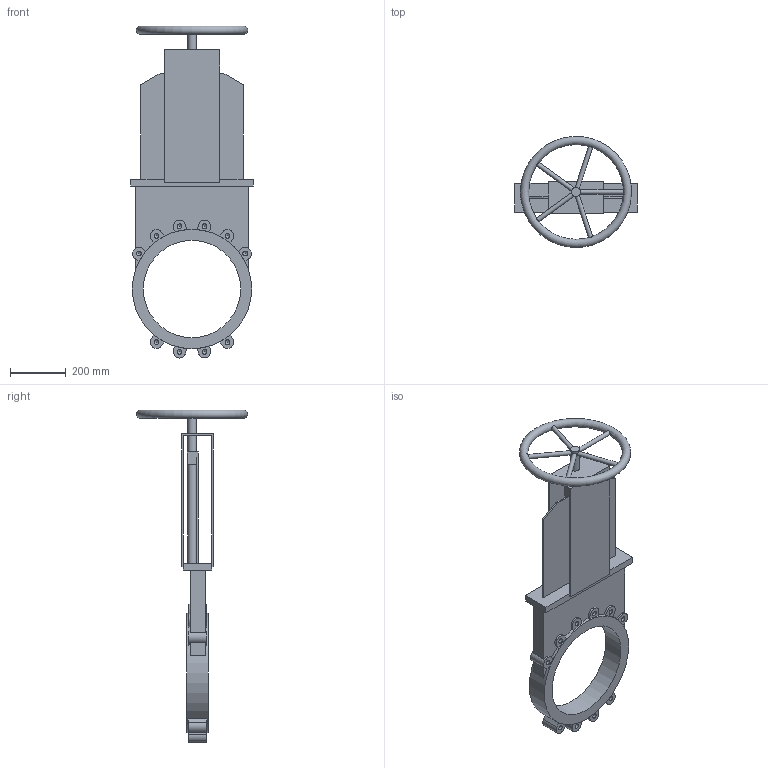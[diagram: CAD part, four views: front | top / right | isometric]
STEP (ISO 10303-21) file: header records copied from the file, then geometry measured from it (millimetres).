
FILE_DESCRIPTION(('STEP AP203'), '1');
FILE_NAME('Çàäâèæêà øèáåðíàÿ ìåæôëàíöåâàÿ K51GV DN350', '', ('UNSPECIFIED'), ('UNSPECIFIED'), 'ASCON STEP Converter 1.6', 'ASCON Math Kernel', '');
FILE_SCHEMA(('CONFIG_CONTROL_DESIGN'));
Length unit declared in the file: millimetre
Bounding box: 440 x 399.66 x 1194.08 mm (x, y, z)
Volume: 12863897.2 mm3; surface area: 1508385.9 mm2
Topology: 1 solids, 1 shells, 159 faces, 434 edges, 281 vertices
Faces by surface type: plane 94, cylinder 44, cone 20, torus 1
Full cylindrical faces by diameter (mm): 16 x5, 17.294 x20, 32 x3, 350 x1, 429 x1
Entity records: 7112 total; most frequent: CARTESIAN_POINT 2018, DIRECTION 790, ORIENTED_EDGE 720, EDGE_CURVE 360, AXIS2_PLACEMENT_3D 282, VERTEX_POINT 260, EDGE_LOOP 232, LINE 226
